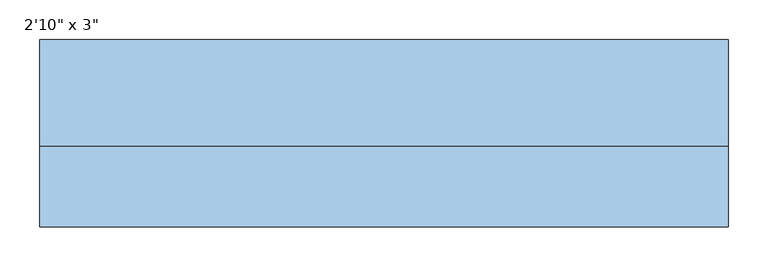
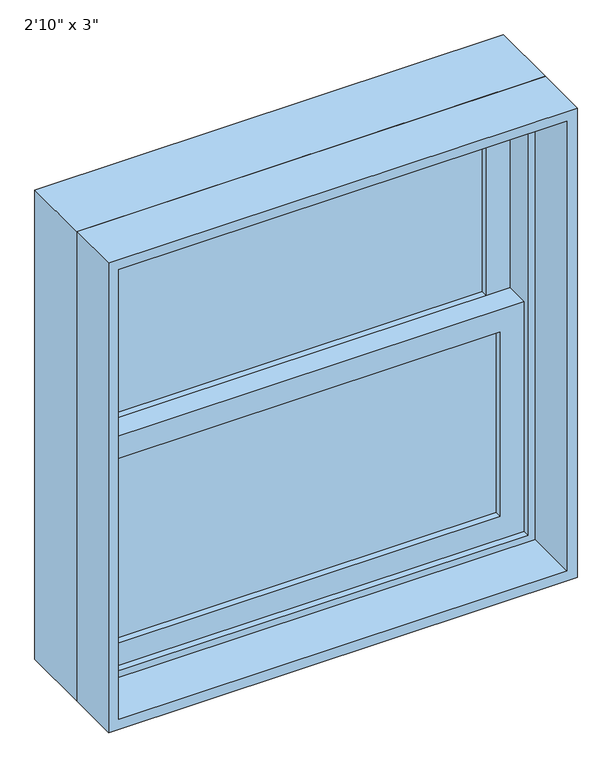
"""IFC4 building model written with IfcOpenShell, lengths in millimetres: window geometry."""

from ifc_helpers import new_model, si_unit, frame, origin, place, context, project, spatial, polyline, outline, extrude, source, transform, mapped, element, save


def window_70ceb76e(model_context):
    return source(origin(), model_context, "Body", "SweptSolid", [
        extrude(outline(polyline([(355.6, 38.1), (355.6, 31.75), (-355.6, 31.75), (-355.6, 38.1), (355.6, 38.1)])), frame((0.0, 0.0, 990.6), z_axis=(0.0, 0.0, 1.0), x_axis=(1.0, 0.0, 0.0)), (0.0, 0.0, 1.0), 358.775),
        extrude(outline(polyline([(-355.6, 25.4), (355.6, 25.4), (355.6, 19.05), (-355.6, 19.05), (-355.6, 25.4)])), frame((0.0, 0.0, 990.6), z_axis=(0.0, 0.0, 1.0), x_axis=(1.0, 0.0, 0.0)), (0.0, 0.0, 1.0), 358.775),
        extrude(outline(polyline([(355.6, 82.55), (355.6, 76.2), (-355.6, 76.2), (-355.6, 82.55), (355.6, 82.55)])), frame((0.0, 0.0, 1393.825), z_axis=(0.0, 0.0, 1.0), x_axis=(1.0, 0.0, 0.0)), (0.0, 0.0, 1.0), 358.775),
        extrude(outline(polyline([(-355.6, 69.85), (355.6, 69.85), (355.6, 63.5), (-355.6, 63.5), (-355.6, 69.85)])), frame((0.0, 0.0, 1393.825), z_axis=(0.0, 0.0, 1.0), x_axis=(1.0, 0.0, 0.0)), (0.0, 0.0, 1.0), 358.775),
        extrude(outline(polyline([(1393.825, -400.05), (946.15, -400.05), (946.15, 400.05), (1393.825, 400.05), (1393.825, -400.05)]), holes=[polyline([(1349.375, 355.6), (990.6, 355.6), (990.6, -355.6), (1349.375, -355.6), (1349.375, 355.6)])]), frame((0.0, 6.35, 0.0), z_axis=(0.0, 1.0, 0.0), x_axis=(0.0, 0.0, 1.0)), (0.0, 0.0, 1.0), 44.45),
        extrude(outline(polyline([(1797.05, -400.05), (1349.375, -400.05), (1349.375, 400.05), (1797.05, 400.05), (1797.05, -400.05)]), holes=[polyline([(1752.6, 355.6), (1393.825, 355.6), (1393.825, -355.6), (1752.6, -355.6), (1752.6, 355.6)])]), frame((0.0, 50.8, 0.0), z_axis=(0.0, 1.0, 0.0), x_axis=(0.0, 0.0, 1.0)), (0.0, 0.0, 1.0), 44.45),
        extrude(outline(polyline([(1828.8, -431.8), (914.4, -431.8), (914.4, 431.8), (1828.8, 431.8), (1828.8, -431.8)]), holes=[polyline([(1797.05, 400.05), (946.15, 400.05), (946.15, -400.05), (1797.05, -400.05), (1797.05, 400.05)])]), frame((0.0, -6.35, 0.0), z_axis=(0.0, 1.0, 0.0), x_axis=(0.0, 0.0, 1.0)), (0.0, 0.0, 1.0), 133.35),
        extrude(outline(polyline([(1828.8, 431.8), (1828.8, -431.8), (914.4, -431.8), (914.4, 431.8), (1828.8, 431.8)]), holes=[polyline([(1809.75, 412.75), (933.45, 412.75), (933.45, -412.75), (1809.75, -412.75), (1809.75, 412.75)])]), frame((0.0, -107.95, 0.0), z_axis=(0.0, 1.0, 0.0), x_axis=(0.0, 0.0, 1.0)), (0.0, 0.0, 1.0), 101.6),
    ])


if __name__ == "__main__":
    model = new_model("IFC4")
    model_context = context("Model", 3, world=origin())
    ifc_project = project(units=[si_unit("LENGTHUNIT", "METRE", prefix="MILLI")], contexts=[model_context])
    site = spatial("IfcSite", under=ifc_project)
    building = spatial("IfcBuilding", under=site)
    placement = place(None, origin())
    window_shape = window_70ceb76e(model_context)
    element("IfcWindow", 1, ObjectType="Planitar-Double-Hung-Single : 2'10\" x 3\"", at=placement, inside=building, context=model_context, shape_type="MappedRepresentation", body=[
        mapped(window_shape, transform((0.0, 0.0, 0.0), x_axis=(1.0, 0.0, 0.0), y_axis=(0.0, 1.0, 0.0), z_axis=(0.0, 0.0, 1.0))),
    ])
    save(model, "model.ifc")
